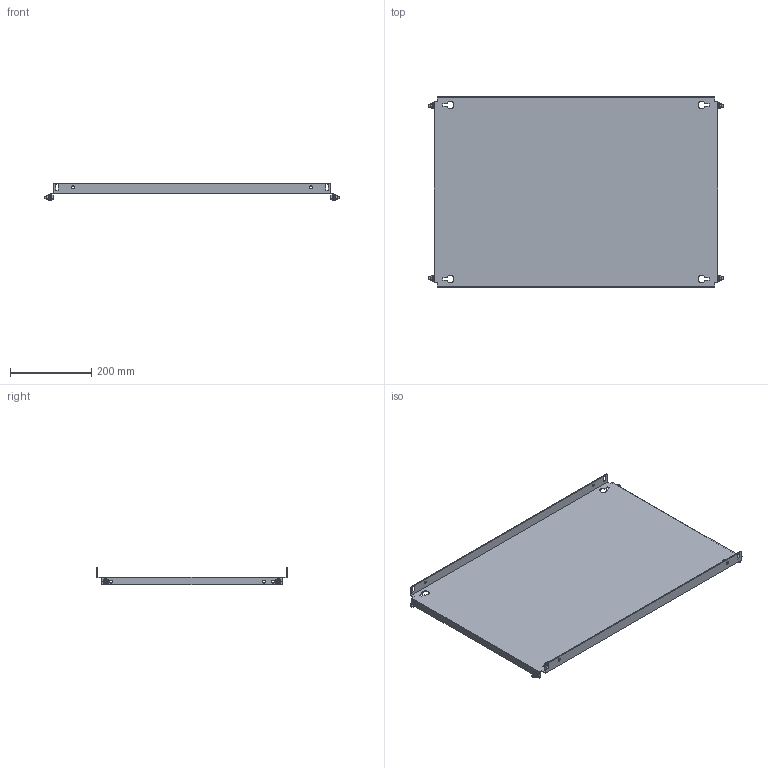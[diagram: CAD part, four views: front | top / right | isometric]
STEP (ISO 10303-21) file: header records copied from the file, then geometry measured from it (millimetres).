
FILE_DESCRIPTION(('Open CASCADE Model'),'2;1');
FILE_NAME('Open CASCADE Shape Model','2025-02-20T13:24:45',('Author'),( 'Open CASCADE'),'Open CASCADE STEP processor 7.8','Open CASCADE 7.8' ,'Unknown');
FILE_SCHEMA(('AUTOMOTIVE_DESIGN { 1 0 10303 214 1 1 1 1 }'));
Length unit declared in the file: millimetre
Products named in the file (4): Compound1; Solid1; Solid2; Solid3
Assembly tree (9 placements, depth 2):
  Compound1
    Solid1
    Solid2  x4
    Solid3  x4
Bounding box: 728 x 469 x 43 mm (x, y, z)
Volume: 753749.8 mm3; surface area: 759339.8 mm2
Topology: 9 solids, 9 shells, 308 faces, 753 edges, 467 vertices
Faces by surface type: plane 150, cone 68, bspline 48, cylinder 30, torus 12
Full cylindrical faces by diameter (mm): 5 x4, 6 x8, 7 x14
Entity records: 4930 total; most frequent: CARTESIAN_POINT 1377, ORIENTED_EDGE 756, DIRECTION 642, EDGE_CURVE 378, VERTEX_POINT 245, LINE 216, VECTOR 216, AXIS2_PLACEMENT_3D 213
